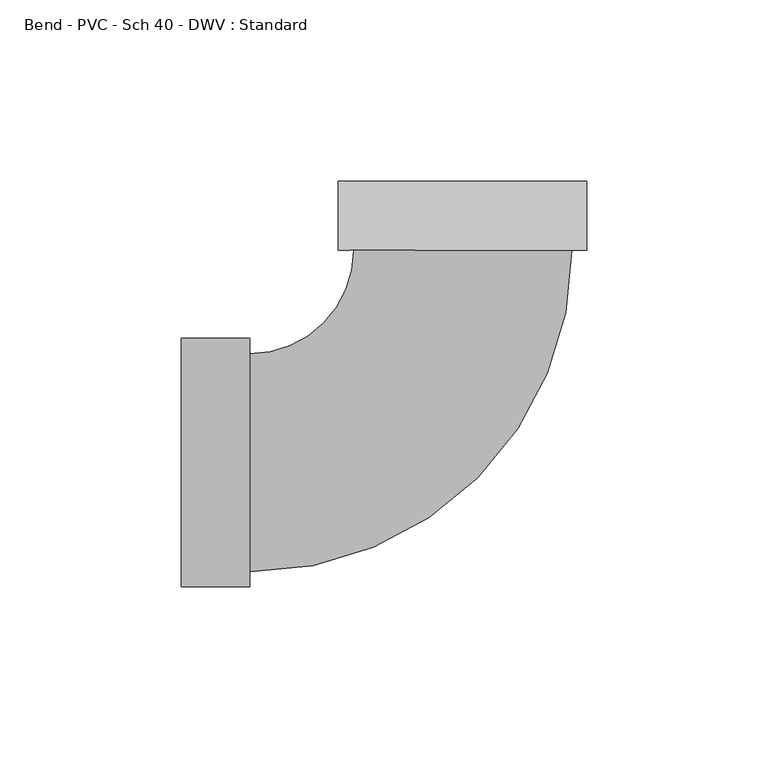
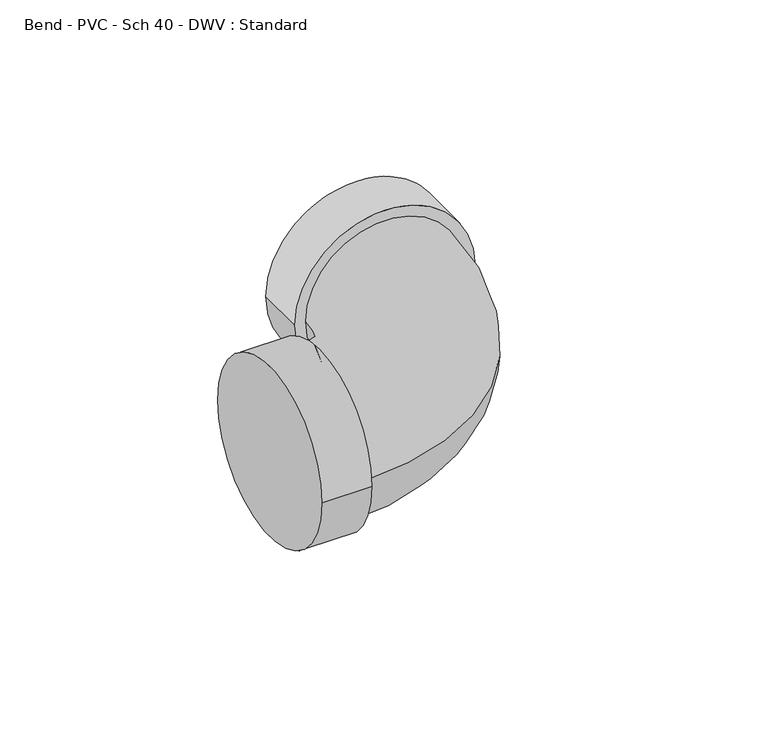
"""IFC4 building model written with IfcOpenShell, lengths in millimetres: pipe fitting geometry, Bend - PVC - Sch 40 - DWV : Standard."""

from ifc_helpers import new_model, si_unit, point, frame, origin, place, context, project, spatial, circle_curve, ellipse_curve, trimmed, source, transform, mapped, element, save
from ifc_brep_helpers import plane_surface, cylinder_surface, revolved_surface, advanced_brep


def bend_pvc_sch_40_dwv_standard_0393334a(model_context):
    return source(origin(), model_context, "Body", "AdvancedBrep", [
        advanced_brep(
        [(-77.8002, -34.3154, 0.0), (-77.8002, 34.3154, 0.0), (-58.7502, -34.3154, 0.0), (-58.7502, 34.3154, 0.0), (-58.7502, -30.1625, 0.0), (-58.7502, 30.1625, 0.0), (-30.1533085, 58.754918, 0.0), (30.1716907, 58.7454805, 0.0), (34.3245907, 58.7448308, 0.0), (-34.3062085, 58.7555677, 0.0), (34.3275709, 77.7948306, 0.0), (-34.3032282, 77.8055675, 0.0)],
        [
            (0, 1, circle_curve(frame((-77.8002, 0.0, 0.0), z_axis=(-1.0, 0.0, 0.0), x_axis=(0.0, 1.0, 0.0)), 34.3154)),
            (1, 0, circle_curve(frame((-77.8002, 0.0, 0.0), z_axis=(-1.0, 0.0, 0.0), x_axis=(0.0, 1.0, 0.0)), 34.3154)),
            (2, 3, circle_curve(frame((-58.7502, 0.0, 0.0), z_axis=(1.0, 0.0, 0.0), x_axis=(0.0, 1.0, 0.0)), 34.3154)),
            (3, 2, circle_curve(frame((-58.7502, 0.0, 0.0), z_axis=(1.0, 0.0, 0.0), x_axis=(0.0, 1.0, 0.0)), 34.3154)),
            (4, 5, circle_curve(frame((-58.7502, 0.0, 0.0), z_axis=(-1.0, 0.0, 0.0), x_axis=(0.0, 1.0, 0.0)), 30.1625)),
            (5, 4, circle_curve(frame((-58.7502, 0.0, 0.0), z_axis=(-1.0, 0.0, 0.0), x_axis=(0.0, 1.0, 0.0)), 30.1625)),
            (0, 2),
            (3, 1),
            (6, 5, circle_curve(frame((-58.7502, 58.7593918, 0.0), z_axis=(0.0, 0.0, -1.0), x_axis=(0.0, -1.0, 0.0)), 28.5968918)),
            (4, 7, circle_curve(frame((-58.7502, 58.7593918, 0.0), z_axis=(0.0, 0.0, 1.0), x_axis=(0.0, -1.0, 0.0)), 88.9218918)),
            (7, 6, circle_curve(frame((0.0091911, 58.7501993, 0.0), z_axis=(-0.00015644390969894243, -0.9999999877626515, 0.0), x_axis=(-0.9999999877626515, 0.00015644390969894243, 0.0)), 30.1625)),
            (6, 7, circle_curve(frame((0.0091911, 58.7501993, 0.0), z_axis=(-0.00015644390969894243, -0.9999999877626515, 0.0), x_axis=(-0.9999999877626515, 0.00015644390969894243, 0.0)), 30.1625)),
            (8, 9, circle_curve(frame((0.0091911, 58.7501993, 0.0), z_axis=(-0.0001564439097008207, -0.9999999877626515, 0.0), x_axis=(-0.9999999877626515, 0.0001564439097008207, 0.0)), 34.3154)),
            (9, 8, circle_curve(frame((0.0091911, 58.7501993, 0.0), z_axis=(-0.0001564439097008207, -0.9999999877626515, 0.0), x_axis=(-0.9999999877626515, 0.0001564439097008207, 0.0)), 34.3154)),
            (10, 11, circle_curve(frame((0.0121714, 77.800199, 0.0), z_axis=(0.0001564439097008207, 0.9999999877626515, 0.0), x_axis=(-0.9999999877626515, 0.0001564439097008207, 0.0)), 34.3154)),
            (11, 10, circle_curve(frame((0.0121714, 77.800199, 0.0), z_axis=(0.0001564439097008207, 0.9999999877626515, 0.0), x_axis=(-0.9999999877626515, 0.0001564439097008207, 0.0)), 34.3154)),
            (8, 10),
            (11, 9),
        ],
        [
            plane_surface(frame((-77.8002, 0.0, 0.0), z_axis=(-1.0, 0.0, 0.0), x_axis=(0.0, 0.0, 1.0))),
            plane_surface(frame((-58.7502, 0.0, 0.0), z_axis=(1.0, 0.0, 0.0), x_axis=(0.0, 0.0, 1.0))),
            cylinder_surface(frame((-77.8002, 0.0, 0.0), z_axis=(-1.0, 0.0, 0.0), x_axis=(0.0, 1.0, 0.0)), 34.3154),
            revolved_surface(trimmed(ellipse_curve(frame((-58.7502, 0.0, 0.0), z_axis=(-1.0, 0.0, 0.0), x_axis=(0.0, 1.0, 0.0)), 30.1625, 30.1625), [point((-58.7502, -30.1625, 0.0))], [point((-58.7502, 30.1625, 0.0))], True, "CARTESIAN"), (-58.7502, 58.7593918, 0.0), (0.0, 0.0, 1.0)),
            revolved_surface(trimmed(ellipse_curve(frame((-58.7502, 0.0, 0.0), z_axis=(-1.0, 0.0, 0.0), x_axis=(0.0, 1.0, 0.0)), 30.1625, 30.1625), [point((-58.7502, 30.1625, 0.0))], [point((-58.7502, -30.1625, 0.0))], True, "CARTESIAN"), (-58.7502, 58.7593918, 0.0), (0.0, 0.0, 1.0)),
            plane_surface(frame((0.0091911, 58.7501993, 0.0), z_axis=(-0.0001564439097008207, -0.9999999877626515, 0.0), x_axis=(0.0, 0.0, 1.0))),
            plane_surface(frame((0.0121714, 77.800199, 0.0), z_axis=(0.0001564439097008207, 0.9999999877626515, 0.0), x_axis=(0.0, 0.0, 1.0))),
            cylinder_surface(frame((0.0091911, 58.7501993, 0.0), z_axis=(-0.0001564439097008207, -0.9999999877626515, 0.0), x_axis=(-0.9999999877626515, 0.0001564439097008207, 0.0)), 34.3154),
        ],
        [
            (0, [[1, 2]]),
            (1, [[3, 4], [5, 6]]),
            (2, [[-1, 7, -4, 8]]),
            (2, [[-2, -8, -3, -7]]),
            (3, [[9, -5, 10, 11]]),
            (4, [[-9, 12, -10, -6]]),
            (5, [[13, 14], [-11, -12]]),
            (6, [[15, 16]]),
            (7, [[-13, 17, -16, 18]]),
            (7, [[-14, -18, -15, -17]]),
        ],
    ),
    ])


if __name__ == "__main__":
    model = new_model("IFC4")
    model_context = context("Model", 3, world=origin())
    ifc_project = project(units=[si_unit("LENGTHUNIT", "METRE", prefix="MILLI")], contexts=[model_context])
    site = spatial("IfcSite", under=ifc_project)
    building = spatial("IfcBuilding", under=site)
    placement = place(None, origin())
    bend_pvc_sch_40_dwv_standard_shape = bend_pvc_sch_40_dwv_standard_0393334a(model_context)
    element("IfcPipeFitting", 1, ObjectType="Bend - PVC - Sch 40 - DWV : Standard", at=placement, inside=building, context=model_context, shape_type="MappedRepresentation", body=[
        mapped(bend_pvc_sch_40_dwv_standard_shape, transform((0.0, 0.0, 0.0), x_axis=(1.0, 0.0, 0.0), y_axis=(0.0, 1.0, 0.0), z_axis=(0.0, 0.0, 1.0))),
    ])
    save(model, "model.ifc")
